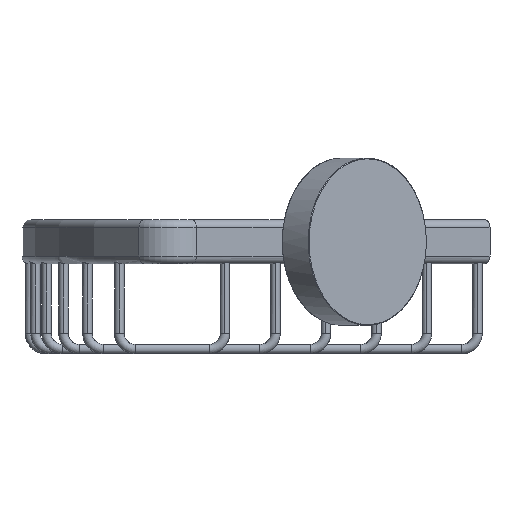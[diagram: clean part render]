
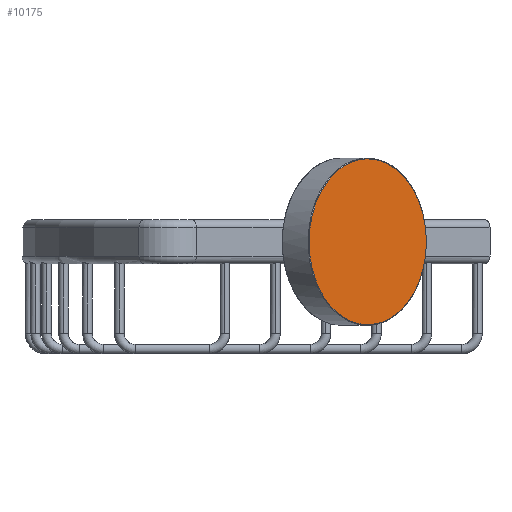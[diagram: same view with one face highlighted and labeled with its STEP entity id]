
A CAD part, front view. The second image highlights one B-rep face of the part: STEP entity #10175.
In plain terms, the highlighted planar face has unit normal (0.707, -0.707, 0).
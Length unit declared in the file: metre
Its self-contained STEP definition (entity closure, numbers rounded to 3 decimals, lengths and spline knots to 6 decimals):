
#230=EDGE_CURVE('',#231,#233,#235,.F.);
#231=VERTEX_POINT('',#232);
#232=CARTESIAN_POINT('',(-0.024183,-0.06166,0.0));
#233=VERTEX_POINT('',#234);
#234=CARTESIAN_POINT('',(-0.04278,-0.080257,0.0263));
#235=CIRCLE('',#236,0.0263);
#236=AXIS2_PLACEMENT_3D('',#237,#238,#239);
#237=CARTESIAN_POINT('',(-0.04278,-0.080257,0.0));
#238=DIRECTION('',(-0.707,0.707,-0.0));
#239=DIRECTION('',(-0.707,-0.707,0.0));
#10175=ADVANCED_FACE('',(#10181),#10176,.F.);
#10176=PLANE('',#10177);
#10177=AXIS2_PLACEMENT_3D('',#10178,#10179,#10180);
#10178=CARTESIAN_POINT('',(-0.04278,-0.080257,0.0265)
  );
#10179=DIRECTION('',(-0.707,0.707,-0.0));
#10180=DIRECTION('',(0.0,0.0,1.0));
#10181=FACE_OUTER_BOUND('',#10182,.T.);
#10182=EDGE_LOOP('',(#10183,#10194));
#10183=ORIENTED_EDGE('',*,*,#10185,.T.);
#10184=CARTESIAN_POINT('',(-0.024183,-0.06166,0.0));
#10185=EDGE_CURVE('',#233,#231,#10186,.F.);
#10186=(B_SPLINE_CURVE(3,(#10184,#10187,#10188,#10189,#10190,#10191,#10192),
  .UNSPECIFIED.,.F.,.U.)B_SPLINE_CURVE_WITH_KNOTS((4,3,4),(0.0,0.5,1.0),
  .UNSPECIFIED.)BOUNDED_CURVE()CURVE()GEOMETRIC_REPRESENTATION_ITEM()RATIONAL_B_SPLINE_CURVE(
  (1.0,0.588,0.588,1.0,0.588,
  0.588,1.0))REPRESENTATION_ITEM(''));
#10187=CARTESIAN_POINT('',(-0.024183,-0.06166,
  -0.027527));
#10188=CARTESIAN_POINT('',(-0.042166,-0.079643,
  -0.038062));
#10189=CARTESIAN_POINT('',(-0.05593,-0.093407,
  -0.018597));
#10190=CARTESIAN_POINT('',(-0.069694,-0.10717,
  0.000868));
#10191=CARTESIAN_POINT('',(-0.062245,-0.099721,0.0263)
  );
#10192=CARTESIAN_POINT('',(-0.04278,-0.080257,0.0263)
  );
#10194=ORIENTED_EDGE('',*,*,#230,.T.);
